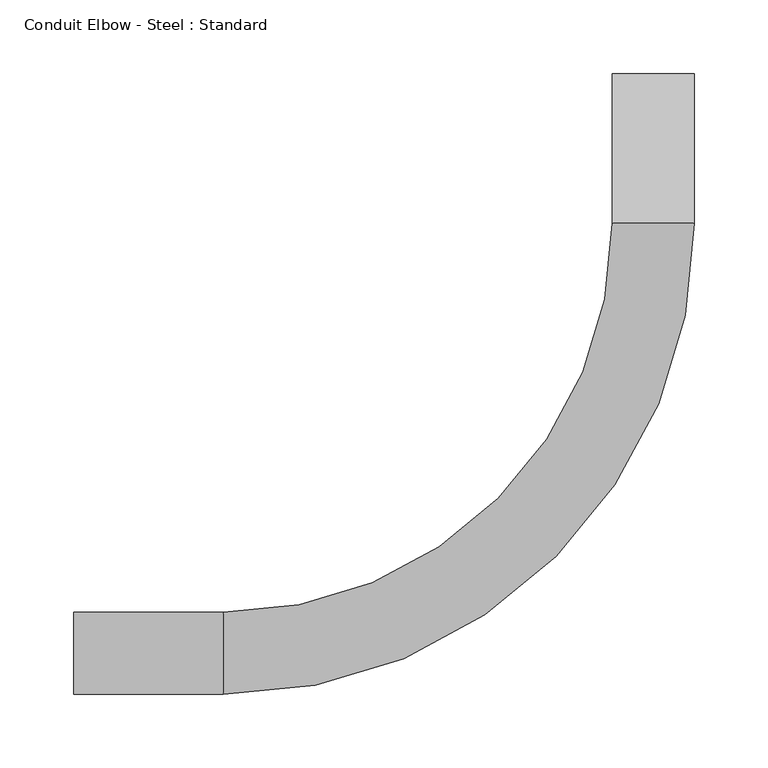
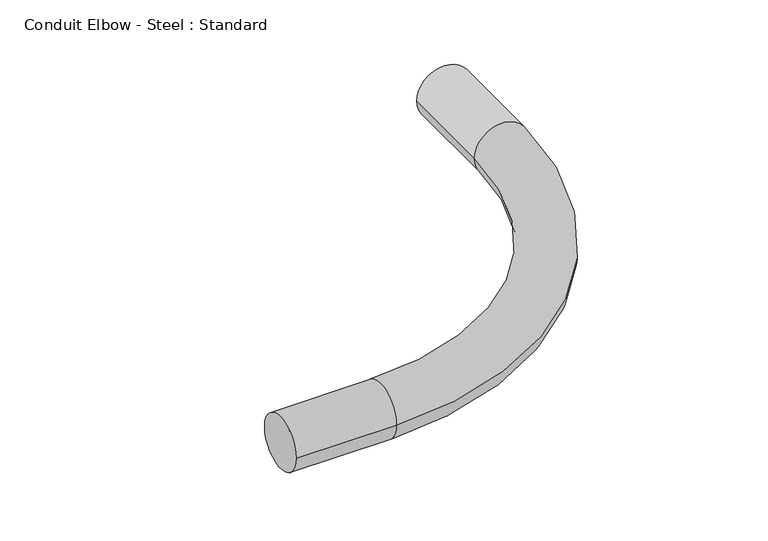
"""IFC4 building model written with IfcOpenShell, lengths in millimetres: cable carrier fitting geometry, Conduit Elbow - Steel : Standard."""

from ifc_helpers import new_model, si_unit, point, frame, origin, place, context, project, spatial, circle_curve, ellipse_curve, trimmed, source, transform, mapped, element, save
from ifc_brep_helpers import plane_surface, cylinder_surface, revolved_surface, advanced_brep


def conduit_elbow_steel_standard_9fb14d21(model_context):
    return source(origin(), model_context, "Body", "AdvancedBrep", [
        advanced_brep(
        [(-393.7, -27.9019, 0.0), (-393.7, 27.9019, 0.0), (-292.1, -27.9019, 0.0), (-292.1, 27.9019, 0.0), (-27.9019, 292.1, 0.0), (27.9019, 292.1, 0.0), (27.9019, 393.7, 0.0), (-27.9019, 393.7, 0.0)],
        [
            (0, 1, circle_curve(frame((-393.7, 0.0, 0.0), z_axis=(-1.0, 0.0, 0.0), x_axis=(0.0, 1.0, 0.0)), 27.9019)),
            (1, 0, circle_curve(frame((-393.7, 0.0, 0.0), z_axis=(-1.0, 0.0, 0.0), x_axis=(0.0, 1.0, 0.0)), 27.9019)),
            (0, 2),
            (2, 3, circle_curve(frame((-292.1, 0.0, 0.0), z_axis=(-1.0, 0.0, 0.0), x_axis=(0.0, 1.0, 0.0)), 27.9019)),
            (3, 1),
            (3, 2, circle_curve(frame((-292.1, 0.0, 0.0), z_axis=(-1.0, 0.0, 0.0), x_axis=(0.0, 1.0, 0.0)), 27.9019)),
            (4, 3, circle_curve(frame((-292.1, 292.1, 0.0), z_axis=(0.0, 0.0, -1.0), x_axis=(0.0, -1.0, 0.0)), 264.1981)),
            (2, 5, circle_curve(frame((-292.1, 292.1, 0.0), z_axis=(0.0, 0.0, 1.0), x_axis=(0.0, -1.0, 0.0)), 320.0019)),
            (5, 4, circle_curve(frame((0.0, 292.1, 0.0), z_axis=(0.0, -1.0, 0.0), x_axis=(-1.0, 0.0, 0.0)), 27.9019)),
            (4, 5, circle_curve(frame((0.0, 292.1, 0.0), z_axis=(0.0, -1.0, 0.0), x_axis=(-1.0, 0.0, 0.0)), 27.9019)),
            (6, 7, circle_curve(frame((0.0, 393.7, 0.0), z_axis=(0.0, 1.0, 0.0), x_axis=(-1.0, 0.0, 0.0)), 27.9019)),
            (7, 6, circle_curve(frame((0.0, 393.7, 0.0), z_axis=(0.0, 1.0, 0.0), x_axis=(-1.0, 0.0, 0.0)), 27.9019)),
            (5, 6),
            (7, 4),
        ],
        [
            plane_surface(frame((-393.7, 0.0, 0.0), z_axis=(-1.0, 0.0, 0.0), x_axis=(0.0, 0.0, 1.0))),
            cylinder_surface(frame((-393.7, 0.0, 0.0), z_axis=(-1.0, 0.0, 0.0), x_axis=(0.0, 1.0, 0.0)), 27.9019),
            revolved_surface(trimmed(ellipse_curve(frame((-292.1, 0.0, 0.0), z_axis=(-1.0, 0.0, 0.0), x_axis=(0.0, 1.0, 0.0)), 27.9019, 27.9019), [point((-292.1, -27.9019, 0.0))], [point((-292.1, 27.9019, 0.0))], True, "CARTESIAN"), (-292.1, 292.1, 0.0), (0.0, 0.0, 1.0)),
            revolved_surface(trimmed(ellipse_curve(frame((-292.1, 0.0, 0.0), z_axis=(-1.0, 0.0, 0.0), x_axis=(0.0, 1.0, 0.0)), 27.9019, 27.9019), [point((-292.1, 27.9019, 0.0))], [point((-292.1, -27.9019, 0.0))], True, "CARTESIAN"), (-292.1, 292.1, 0.0), (0.0, 0.0, 1.0)),
            plane_surface(frame((0.0, 393.7, 0.0), z_axis=(0.0, 1.0, 0.0), x_axis=(0.0, 0.0, 1.0))),
            cylinder_surface(frame((0.0, 292.1, 0.0), z_axis=(0.0, -1.0, 0.0), x_axis=(-1.0, 0.0, 0.0)), 27.9019),
        ],
        [
            (0, [[1, 2]]),
            (1, [[-1, 3, 4, 5]]),
            (1, [[-2, -5, 6, -3]]),
            (2, [[7, -4, 8, 9]]),
            (3, [[-8, -6, -7, 10]]),
            (4, [[11, 12]]),
            (5, [[-9, 13, -12, 14]]),
            (5, [[-10, -14, -11, -13]]),
        ],
    ),
    ])


if __name__ == "__main__":
    model = new_model("IFC4")
    model_context = context("Model", 3, world=origin())
    ifc_project = project(units=[si_unit("LENGTHUNIT", "METRE", prefix="MILLI")], contexts=[model_context])
    site = spatial("IfcSite", under=ifc_project)
    building = spatial("IfcBuilding", under=site)
    placement = place(None, origin())
    conduit_elbow_steel_standard_shape = conduit_elbow_steel_standard_9fb14d21(model_context)
    element("IfcCableCarrierFitting", 1, ObjectType="Conduit Elbow - Steel : Standard", at=placement, inside=building, context=model_context, shape_type="MappedRepresentation", body=[
        mapped(conduit_elbow_steel_standard_shape, transform((0.0, 0.0, 0.0), x_axis=(1.0, 0.0, 0.0), y_axis=(0.0, 1.0, 0.0), z_axis=(0.0, 0.0, 1.0))),
    ])
    save(model, "model.ifc")
